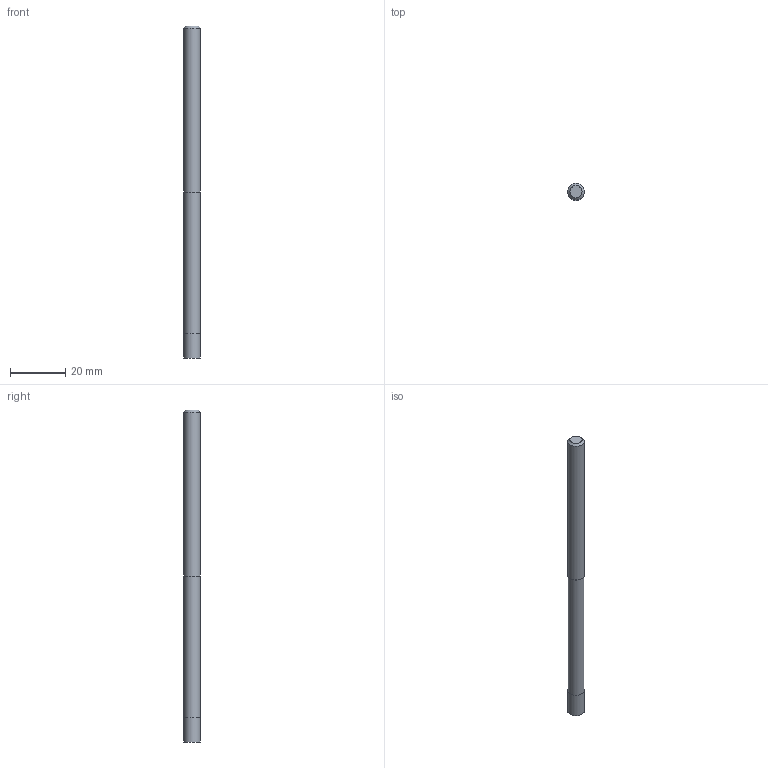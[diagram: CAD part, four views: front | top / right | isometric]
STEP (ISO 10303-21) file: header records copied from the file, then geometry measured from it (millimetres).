
FILE_DESCRIPTION((''),'2;1');
FILE_NAME('C:\Users\nsx150\AppData\Local\Temp\Mastercam 2021\17T8Q8S9EB\TEMP.step','2021-04-21T14:29:14',(''),(''),'STEP Write','Mastercam 2021 ... CNC Software, Inc.','');
FILE_SCHEMA(('AUTOMOTIVE_DESIGN'));
Length unit declared in the file: millimetre
Products named in the file (1): None
Bounding box: 6 x 6 x 120 mm (x, y, z)
Volume: 3292.9 mm3; surface area: 2333.3 mm2
Topology: 2 solids, 2 shells, 9 faces, 11 edges, 7 vertices
Faces by surface type: plane 5, cylinder 3, cone 1
Full cylindrical faces by diameter (mm): 5.8 x1, 6 x2
Entity records: 211 total; most frequent: DIRECTION 36, CARTESIAN_POINT 25, AXIS2_PLACEMENT_3D 18, ORIENTED_EDGE 14, EDGE_LOOP 14, STYLED_ITEM 12, ADVANCED_FACE 9, FACE_BOUND 8
